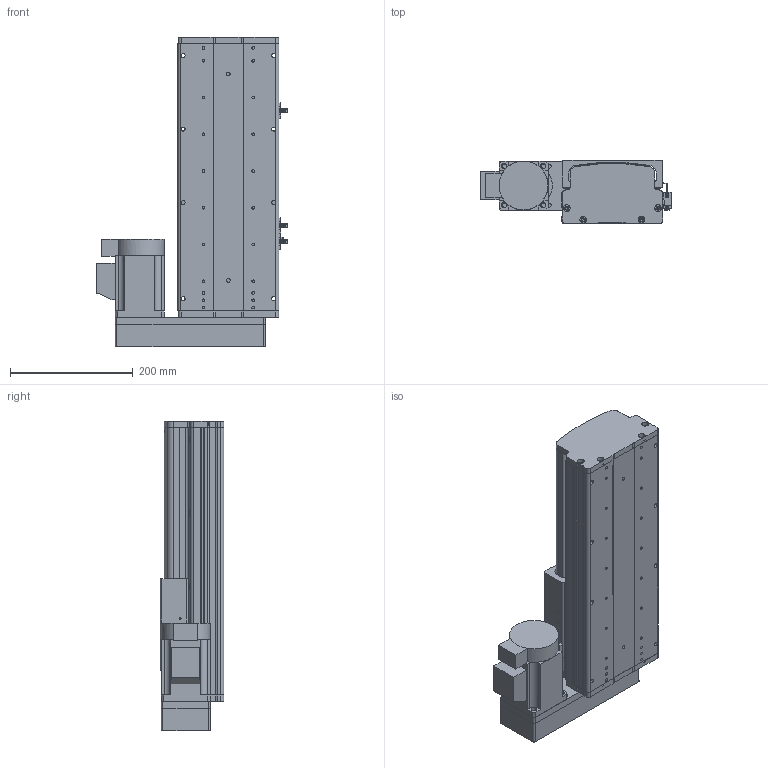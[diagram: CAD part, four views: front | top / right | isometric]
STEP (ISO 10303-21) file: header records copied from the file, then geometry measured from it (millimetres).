
FILE_DESCRIPTION (( 'STEP AP214' ), '1' );
FILE_NAME ('KSD165S-S200-MR-CM.STEP', '2017-10-17T09:17:28', ( '微软用户' ), ( '微软中国' ), 'SwSTEP 2.0', 'SolidWorks 2014', '' );
FILE_SCHEMA (( 'AUTOMOTIVE_DESIGN' ));
Length unit declared in the file: millimetre
Products named in the file (17): 165宽模组保护罩左右折; 165宽模组马达安装板连板左右折丝杆; KSD165模组-丝杆上下左右折前端板; KSD165模组底板-200行程-最新; KSD165模组-防尘盖1-200行程-最新版; KSD165耀郪-佪裝-滅袉菜-3 -; KSD165耀郪-佪裝-滅袉菜-1; 覜茼え68遵圉猾敕; U倰嫖萇假蚾璃; U倰嫖萇EEㄜSX672; KSD165耀郪-綴傷啣1; KSD165模组-丝杆滑动座-最新版; KSD165S-S200-MR-CM; 拸秶雄ん750W侜督萇儂; HTPA26S5M250-A-H8丝杆用(内径14）; HTPA26S5M250-A-H8 750W萇儂蚚; 肣翐M4X35樓6
Assembly tree (23 placements, depth 2):
  KSD165S-S200-MR-CM
    KSD165模组-丝杆滑动座-最新版
    KSD165耀郪-綴傷啣1
    U倰嫖萇EEㄜSX672  x3
    U倰嫖萇假蚾璃  x3
    覜茼え68遵圉猾敕
    KSD165耀郪-佪裝-滅袉菜-1
    KSD165耀郪-佪裝-滅袉菜-3 -
    KSD165模组-防尘盖1-200行程-最新版
    KSD165模组底板-200行程-最新
    KSD165模组-丝杆上下左右折前端板
    165宽模组马达安装板连板左右折丝杆
    165宽模组保护罩左右折
    肣翐M4X35樓6  x4
    HTPA26S5M250-A-H8 750W萇儂蚚
    HTPA26S5M250-A-H8丝杆用(内径14）
    拸秶雄ん750W侜督萇儂
Bounding box: 311.2 x 104 x 505.5 mm (x, y, z)
Volume: 4266709 mm3; surface area: 982357.5 mm2
Topology: 24 solids, 24 shells, 1801 faces, 5064 edges, 3303 vertices
Faces by surface type: cylinder 1123, plane 569, cone 109
Entity records: 56949 total; most frequent: CARTESIAN_POINT 11851, DIRECTION 9241, ORIENTED_EDGE 8608, EDGE_CURVE 4304, AXIS2_PLACEMENT_3D 3606, VERTEX_POINT 2832, CIRCLE 2044, VECTOR 2029
